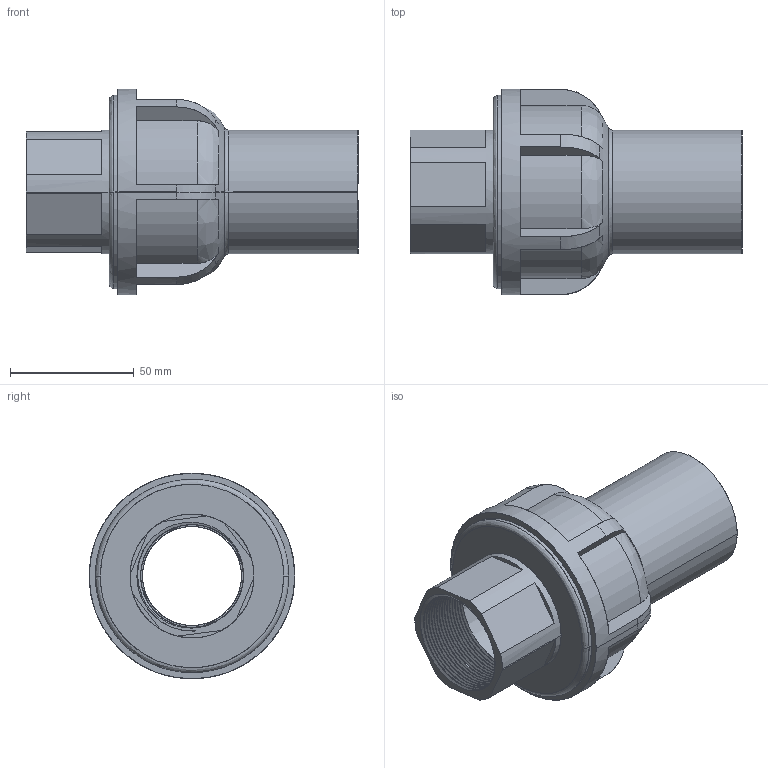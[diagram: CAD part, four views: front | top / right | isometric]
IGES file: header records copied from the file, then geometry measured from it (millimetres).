
Start section: SolidWorks IGES file using analytic representation for surfaces
Global section: file name: \\DOWNSHIFT.fusion-group.net\FR$\hwegrzynska\Desktop\Fusion Plast Australia- drawings\Transition Adaptor - Female\BIM\50x1.5inch-female.IGS; native system: SolidWorks 2019; preprocessor: SolidWorks 2019; author: hwegrzynska; date: 210514.140732; units: millimetre
Bounding box: 134 x 83 x 83 mm (x, y, z)
Surface area: 54396.4 mm2 (no closed solid volume)
Topology: 0 solids, 0 shells, 105 faces, 1959 edges, 1959 vertices
Faces by surface type: bspline 55, revolution 50
